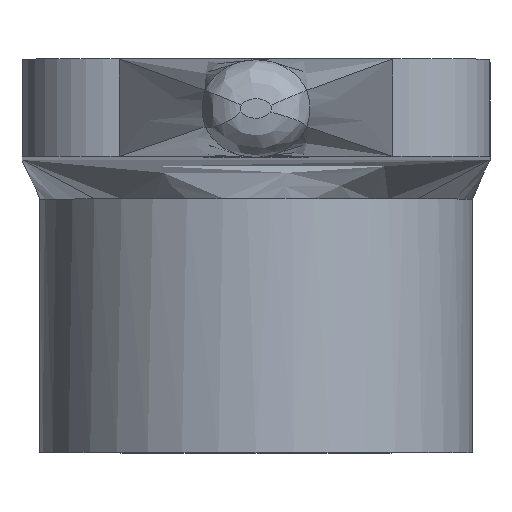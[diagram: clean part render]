
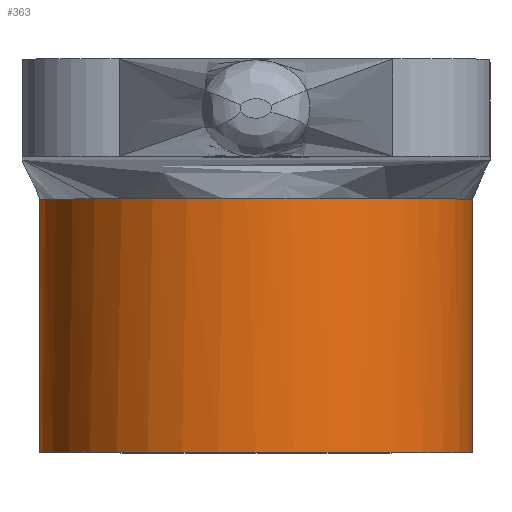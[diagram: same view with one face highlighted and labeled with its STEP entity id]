
A CAD part, top view. The second image highlights one B-rep face of the part: STEP entity #363.
In plain terms, the highlighted cylindrical face has radius 11.1 mm (diameter 22.2 mm), a full revolution.
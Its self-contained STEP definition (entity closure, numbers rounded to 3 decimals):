
#41=B_SPLINE_CURVE_WITH_KNOTS('',3,(#1613,#1614,#1615,#1616,#1617,#1618,
#1619,#1620,#1621,#1622,#1623,#1624),.UNSPECIFIED.,.F.,.F.,(4,2,2,2,2,4),
(-0.809,-0.404,-0.303,-0.152,
-0.076,0.),.UNSPECIFIED.);
#42=B_SPLINE_CURVE_WITH_KNOTS('',3,(#1657,#1658,#1659,#1660,#1661,#1662,
#1663,#1664,#1665,#1666,#1667,#1668,#1669,#1670),.UNSPECIFIED.,.F.,.F.,
(4,2,2,2,2,2,4),(-1.884,-1.601,-1.319,-0.942,
-0.762,-0.383,0.),.UNSPECIFIED.);
#75=FACE_OUTER_BOUND('',#100,.T.);
#100=EDGE_LOOP('',(#329,#330,#331,#332,#333,#334));
#125=LINE('',#1674,#148);
#148=VECTOR('',#477,11.1);
#159=CIRCLE('',#400,11.1);
#160=CIRCLE('',#402,11.1);
#186=VERTEX_POINT('',#1611);
#187=VERTEX_POINT('',#1612);
#188=VERTEX_POINT('',#1625);
#189=VERTEX_POINT('',#1672);
#232=EDGE_CURVE('',#186,#187,#41,.T.);
#233=EDGE_CURVE('',#187,#188,#159,.T.);
#236=EDGE_CURVE('',#188,#186,#42,.T.);
#237=EDGE_CURVE('',#189,#189,#160,.T.);
#238=EDGE_CURVE('',#189,#187,#125,.T.);
#329=ORIENTED_EDGE('',*,*,#237,.F.);
#330=ORIENTED_EDGE('',*,*,#238,.T.);
#331=ORIENTED_EDGE('',*,*,#232,.F.);
#332=ORIENTED_EDGE('',*,*,#236,.F.);
#333=ORIENTED_EDGE('',*,*,#233,.F.);
#334=ORIENTED_EDGE('',*,*,#238,.F.);
#341=CYLINDRICAL_SURFACE('',#401,11.1);
#363=ADVANCED_FACE('',(#75),#341,.T.);
#400=AXIS2_PLACEMENT_3D('',#1626,#469,#470);
#401=AXIS2_PLACEMENT_3D('',#1671,#473,#474);
#402=AXIS2_PLACEMENT_3D('',#1673,#475,#476);
#469=DIRECTION('center_axis',(0.,1.,0.));
#470=DIRECTION('ref_axis',(-1.,0.,0.));
#473=DIRECTION('center_axis',(0.,-1.,0.));
#474=DIRECTION('ref_axis',(-1.,0.,0.));
#475=DIRECTION('center_axis',(0.,-1.,0.));
#476=DIRECTION('ref_axis',(-1.,0.,0.));
#477=DIRECTION('',(0.,1.,0.));
#1611=CARTESIAN_POINT('',(8.289,16.6,136.982));
#1612=CARTESIAN_POINT('',(11.1,16.6,129.6));
#1613=CARTESIAN_POINT('Ctrl Pts',(8.289,16.6,136.982));
#1614=CARTESIAN_POINT('Ctrl Pts',(9.186,16.6,135.975));
#1615=CARTESIAN_POINT('Ctrl Pts',(9.892,16.603,134.813));
#1616=CARTESIAN_POINT('Ctrl Pts',(10.492,16.604,133.238));
#1617=CARTESIAN_POINT('Ctrl Pts',(10.598,16.604,132.918));
#1618=CARTESIAN_POINT('Ctrl Pts',(10.825,16.603,132.106));
#1619=CARTESIAN_POINT('Ctrl Pts',(10.928,16.602,131.61));
#1620=CARTESIAN_POINT('Ctrl Pts',(11.031,16.601,130.858));
#1621=CARTESIAN_POINT('Ctrl Pts',(11.057,16.602,130.607));
#1622=CARTESIAN_POINT('Ctrl Pts',(11.091,16.603,130.103));
#1623=CARTESIAN_POINT('Ctrl Pts',(11.1,16.604,129.852));
#1624=CARTESIAN_POINT('Ctrl Pts',(11.1,16.604,129.6));
#1625=CARTESIAN_POINT('',(-8.292,16.6,136.979));
#1626=CARTESIAN_POINT('Origin',(0.,16.6,129.6));
#1657=CARTESIAN_POINT('Ctrl Pts',(-8.292,16.6,136.979));
#1658=CARTESIAN_POINT('Ctrl Pts',(-7.669,16.6,137.679));
#1659=CARTESIAN_POINT('Ctrl Pts',(-6.96,16.601,138.297));
#1660=CARTESIAN_POINT('Ctrl Pts',(-5.405,16.601,139.34));
#1661=CARTESIAN_POINT('Ctrl Pts',(-4.566,16.6,139.76));
#1662=CARTESIAN_POINT('Ctrl Pts',(-2.51,16.602,140.484));
#1663=CARTESIAN_POINT('Ctrl Pts',(-1.276,16.623,140.696));
#1664=CARTESIAN_POINT('Ctrl Pts',(0.565,16.611,140.702));
#1665=CARTESIAN_POINT('Ctrl Pts',(1.16,16.604,140.655));
#1666=CARTESIAN_POINT('Ctrl Pts',(2.999,16.6,140.361));
#1667=CARTESIAN_POINT('Ctrl Pts',(4.203,16.603,139.951));
#1668=CARTESIAN_POINT('Ctrl Pts',(6.433,16.602,138.735));
#1669=CARTESIAN_POINT('Ctrl Pts',(7.44,16.6,137.935));
#1670=CARTESIAN_POINT('Ctrl Pts',(8.289,16.6,136.982));
#1671=CARTESIAN_POINT('Origin',(0.,14.6,129.6));
#1672=CARTESIAN_POINT('',(11.1,3.6,129.6));
#1673=CARTESIAN_POINT('Origin',(0.,3.6,129.6));
#1674=CARTESIAN_POINT('',(11.1,14.6,129.6));
